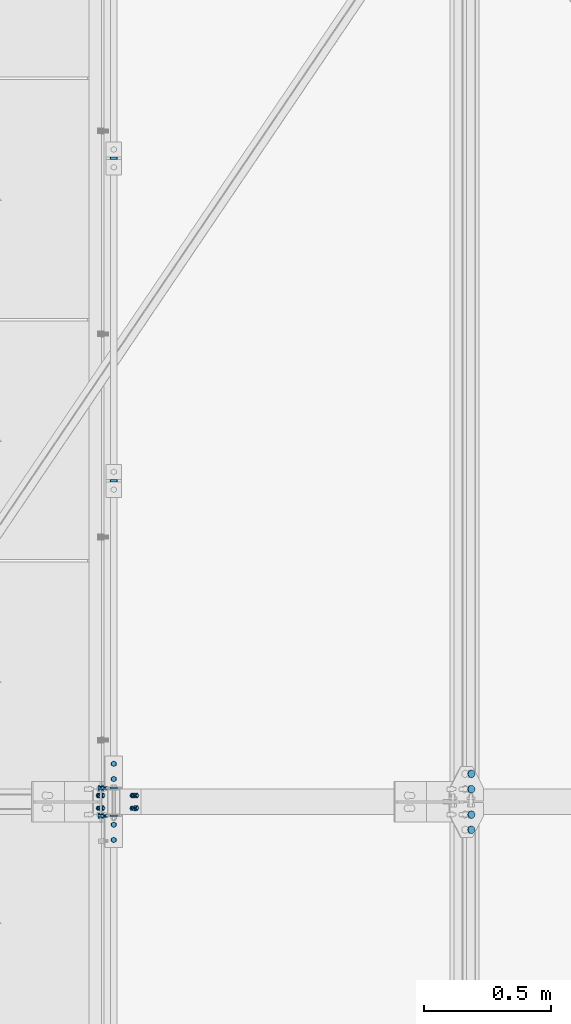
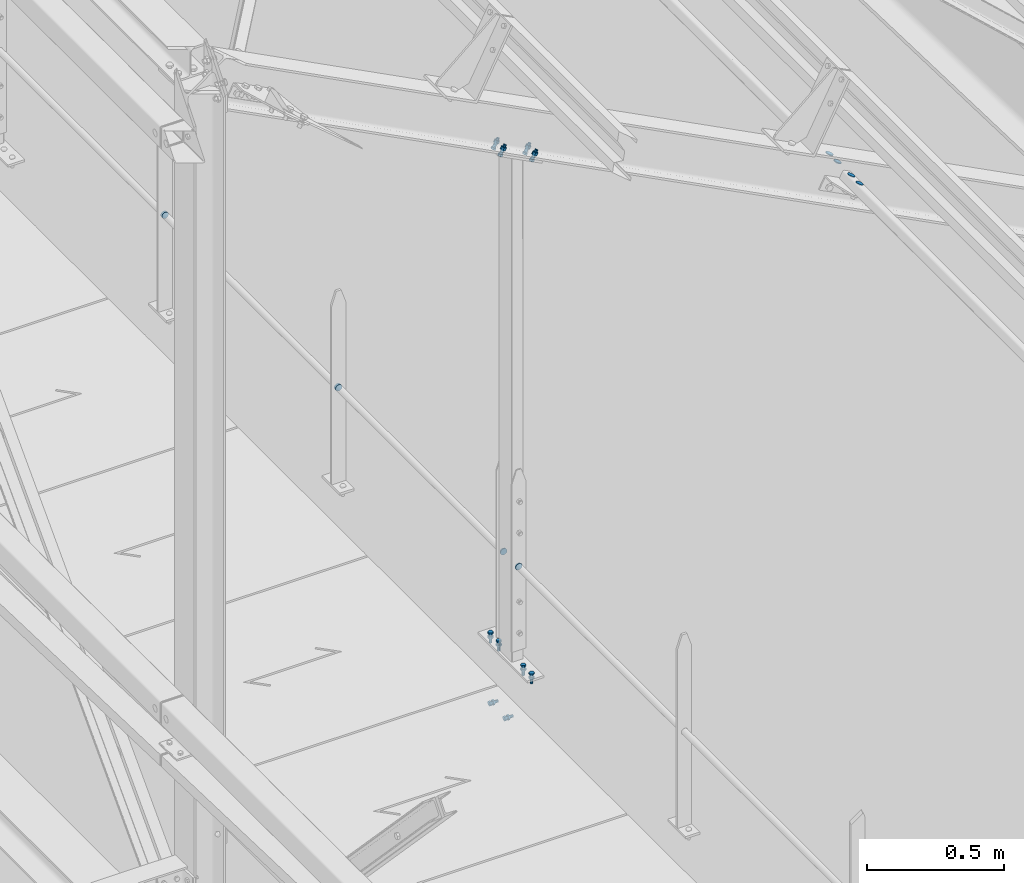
# One storey, part 290 of 362: 12 mechanical fasteners.
"""IFC2X3 building model written with IfcOpenShell, lengths in millimetres."""

import ifcopenshell
import ifcopenshell.guid

model = None  # the IFC model being written
_history = None  # IfcOwnerHistory: only IFC2X3 demands one
_inside = {}  # id of a spatial element -> (the spatial element, [elements in it])
_under = {}  # id of a project, library or spatial element -> (it, [spatial elements below it])
_declared = {}  # id of a project -> (the project, [libraries it declares])
_typed = {}  # id of a type object -> (the type object, [elements of that type])
_made_of = {}  # id of a material, layer set ... -> (it, [elements and type objects made of it])


def new_model(schema):
    """Start an empty IFC model of exactly this schema.

    Asked for "IFC4X3", IfcOpenShell would pick the latest addendum, in which some entities
    have other attributes; the version numbers below select the first issue.
    IFC2X3 requires an IfcOwnerHistory on every rooted entity: one is made here for all.
    """
    global model, _history
    if schema == "IFC4X3":
        model = ifcopenshell.file(schema_version=(4, 3, 0, 0))
    else:
        model = ifcopenshell.file(schema=schema)
    _inside.clear()
    _under.clear()
    _declared.clear()
    _typed.clear()
    _made_of.clear()
    _history = None
    if model.schema == "IFC2X3":
        org = make("IfcOrganization", Name="unknown")
        user = make(
            "IfcPersonAndOrganization",
            ThePerson=make("IfcPerson", FamilyName="unknown"),
            TheOrganization=org,
        )
        app = make(
            "IfcApplication",
            ApplicationDeveloper=org,
            Version="unknown",
            ApplicationFullName="unknown",
            ApplicationIdentifier="unknown",
        )
        _history = make(
            "IfcOwnerHistory",
            OwningUser=user,
            OwningApplication=app,
            ChangeAction="ADDED",
            CreationDate=0,
        )
    return model


def make(cls, **values):
    """One entity of the class cls with the attributes given. An attribute that is None is left unset."""
    return model.create_entity(
        cls, **{name: value for name, value in values.items() if value is not None}
    )


def rooted(cls, **values):
    """An entity with a GlobalId (a new one), such as an element, a storey or a relation."""
    return make(cls, GlobalId=ifcopenshell.guid.new(), OwnerHistory=_history, **values)


def si_unit(unit_type, name, prefix=None):
    """IfcSIUnit, for example si_unit("LENGTHUNIT", "METRE", prefix="MILLI")."""
    return make("IfcSIUnit", UnitType=unit_type, Prefix=prefix, Name=name)


def assignment(units):
    """IfcUnitAssignment: the units of a project."""
    return None if units is None else make("IfcUnitAssignment", Units=units)


def point(xyz):
    """IfcCartesianPoint."""
    return None if xyz is None else make("IfcCartesianPoint", Coordinates=xyz)


def direction(xyz):
    """IfcDirection."""
    return None if xyz is None else make("IfcDirection", DirectionRatios=xyz)


def frame(location, z_axis=None, x_axis=None):
    """IfcAxis2Placement3D, a coordinate frame: its origin and axes. An axis left out is left unset."""
    return make(
        "IfcAxis2Placement3D",
        Location=point(location),
        Axis=direction(z_axis),
        RefDirection=direction(x_axis),
    )


def frame_2d(location, x_axis=None):
    """IfcAxis2Placement2D, a coordinate frame in the plane: its origin and x axis."""
    return make(
        "IfcAxis2Placement2D", Location=point(location), RefDirection=direction(x_axis)
    )


def origin_with_axes():
    """The frame at (0, 0, 0) with the z axis (0, 0, 1) and the x axis (1, 0, 0) written out."""
    return frame((0.0, 0.0, 0.0), z_axis=(0.0, 0.0, 1.0), x_axis=(1.0, 0.0, 0.0))


def origin_2d_with_axis():
    """The frame at (0, 0) in the plane with the x axis (1, 0) written out."""
    return frame_2d((0.0, 0.0), x_axis=(1.0, 0.0))


def place(relative_to, where):
    """IfcLocalPlacement: puts the frame where relative to a parent placement (None: the world)."""
    return make(
        "IfcLocalPlacement", PlacementRelTo=relative_to, RelativePlacement=where
    )


def context(
    kind, dimensions, precision=None, world=None, true_north=None, identifier=None
):
    """IfcGeometricRepresentationContext, for example the 3D "Model" context."""
    return make(
        "IfcGeometricRepresentationContext",
        ContextIdentifier=identifier,
        ContextType=kind,
        CoordinateSpaceDimension=dimensions,
        Precision=precision,
        WorldCoordinateSystem=world,
        TrueNorth=true_north,
    )


def subcontext(parent, identifier, kind, view, scale=None):
    """IfcGeometricRepresentationSubContext, for example "Body" below "Model"."""
    return make(
        "IfcGeometricRepresentationSubContext",
        ContextIdentifier=identifier,
        ContextType=kind,
        ParentContext=parent,
        TargetScale=scale,
        TargetView=view,
    )


def project(units=None, contexts=None):
    """IfcProject with its units and contexts."""
    return rooted(
        "IfcProject",
        Name="project",
        RepresentationContexts=contexts,
        UnitsInContext=assignment(units),
    )


def spatial(cls, under=None, at=None, **own):
    """A site, building, storey or space (cls), placed at a placement, below another one or the project."""
    s = rooted(cls, ObjectPlacement=at, **own)
    if under is not None:
        _under.setdefault(under.id(), (under, []))[1].append(s)
    return s


def polyline(points):
    """IfcPolyline through the points."""
    return make("IfcPolyline", Points=[point(p) for p in points])


def profile(cls, at=None, kind="AREA", **sizes):
    """A parametric profile (cls). Its sizes go by their IFC names, for example OverallWidth=200.0."""
    return make(cls, ProfileType=kind, Position=at, **sizes)


def circle(**sizes):
    """IfcCircleProfileDef."""
    return profile("IfcCircleProfileDef", **sizes)


def outline(outer, holes=None, kind="AREA"):
    """IfcArbitraryClosedProfileDef: a profile drawn as a closed curve; with holes, ...WithVoids."""
    if holes is None:
        return make("IfcArbitraryClosedProfileDef", ProfileType=kind, OuterCurve=outer)
    return make(
        "IfcArbitraryProfileDefWithVoids",
        ProfileType=kind,
        OuterCurve=outer,
        InnerCurves=holes,
    )


def extrude(swept, where, along, depth):
    """IfcExtrudedAreaSolid: the profile swept, set in the frame where, extruded along a direction by depth."""
    return make(
        "IfcExtrudedAreaSolid",
        SweptArea=swept,
        Position=where,
        ExtrudedDirection=direction(along),
        Depth=depth,
    )


def shape(context_of_items, identifier, shape_type, items):
    """IfcShapeRepresentation: the items that make up one representation, for example the "Body"."""
    return make(
        "IfcShapeRepresentation",
        ContextOfItems=context_of_items,
        RepresentationIdentifier=identifier,
        RepresentationType=shape_type,
        Items=items,
    )


def source(mapping_origin, context_of_items, identifier, shape_type, items):
    """IfcRepresentationMap: a shape defined once, which mapped items show again and again."""
    return make(
        "IfcRepresentationMap",
        MappingOrigin=mapping_origin,
        MappedRepresentation=shape(context_of_items, identifier, shape_type, items),
    )


def transform(
    local_origin,
    x_axis=None,
    y_axis=None,
    z_axis=None,
    scale=None,
    scale2=None,
    scale3=None,
    uniform=True,
):
    """IfcCartesianTransformationOperator3D, or its non-uniform kind. x_axis, y_axis, z_axis: its Axis1, 2, 3."""
    if uniform:
        return make(
            "IfcCartesianTransformationOperator3D",
            Axis1=direction(x_axis),
            Axis2=direction(y_axis),
            LocalOrigin=point(local_origin),
            Scale=scale,
            Axis3=direction(z_axis),
        )
    return make(
        "IfcCartesianTransformationOperator3DnonUniform",
        Axis1=direction(x_axis),
        Axis2=direction(y_axis),
        LocalOrigin=point(local_origin),
        Scale=scale,
        Axis3=direction(z_axis),
        Scale2=scale2,
        Scale3=scale3,
    )


def mapped(mapping_source, mapping_target):
    """IfcMappedItem: shows the shape of a source again, moved by a transform."""
    return make(
        "IfcMappedItem", MappingSource=mapping_source, MappingTarget=mapping_target
    )


def material(Name=None, Category=None):
    """IfcMaterial."""
    return make("IfcMaterial", Name=Name, Category=Category)


def made_of(thing, what):
    """Note that an element or type object is made of a material, layer set ...; save() writes the relation."""
    if what is not None:
        _made_of.setdefault(what.id(), (what, []))[1].append(thing)
    return thing


def type_object(cls, material=None, **own):
    """A type object (cls), such as IfcWallType, which elements share."""
    return made_of(rooted(cls, **own), material)


def element(
    cls,
    number,
    at=None,
    inside=None,
    cuts=None,
    type_object=None,
    material=None,
    context=None,
    identifier="Body",
    shape_type=None,
    held_by="IfcProductDefinitionShape",
    body=None,
    shapes=None,
    **own,
):
    """One element of the class cls, such as IfcWall. Its Tag is "e" and its number.

    at: its placement. inside: the storey or other place that contains it. cuts: it is an
    opening in that element (IfcRelVoidsElement). A single representation is given by context,
    identifier, shape_type and body (its items); several are given by shapes. held_by: the class
    of the entity that holds the representations. save() writes the other relations.
    """
    e = rooted(cls, Tag="e%d" % number, ObjectPlacement=at, **own)
    if body is not None:
        shapes = [shape(context, identifier, shape_type, body)]
    if shapes is not None:
        e.Representation = make(held_by, Representations=shapes)
    if inside is not None:
        _inside.setdefault(inside.id(), (inside, []))[1].append(e)
    if cuts is not None:
        rooted(
            "IfcRelVoidsElement", RelatingBuildingElement=cuts, RelatedOpeningElement=e
        )
    if type_object is not None:
        _typed.setdefault(type_object.id(), (type_object, []))[1].append(e)
    return made_of(e, material)


def aggregate(whole, parts):
    """IfcRelAggregates: a whole, such as a stair, and the parts it consists of."""
    return rooted("IfcRelAggregates", RelatingObject=whole, RelatedObjects=parts)


def save(model, path):
    """Write the relations noted so far, then the file.

    IfcRelAggregates (storeys below a building ...), IfcRelContainedInSpatialStructure (elements
    in a storey), IfcRelDefinesByType, IfcRelAssociatesMaterial and IfcRelDeclares: one each for
    every whole, place, type object, material and project.
    """
    for whole, parts in _under.values():
        aggregate(whole, parts)
    for where, things in _inside.values():
        rooted(
            "IfcRelContainedInSpatialStructure",
            RelatedElements=things,
            RelatingStructure=where,
        )
    for kind, things in _typed.values():
        rooted("IfcRelDefinesByType", RelatedObjects=things, RelatingType=kind)
    for what, things in _made_of.values():
        rooted("IfcRelAssociatesMaterial", RelatedObjects=things, RelatingMaterial=what)
    for by, libraries in _declared.values():
        rooted("IfcRelDeclares", RelatingContext=by, RelatedDefinitions=libraries)
    model.write(path)


model = new_model("IFC2X3")

# Units and contexts
model_context = context("Model", 3, precision=1e-05, world=origin_with_axes())
body_context = subcontext(model_context, "Body", "Model", "MODEL_VIEW")
ifc_project = project(units=[si_unit("LENGTHUNIT", "METRE", prefix="MILLI"), si_unit("AREAUNIT", "SQUARE_METRE"), si_unit("VOLUMEUNIT", "CUBIC_METRE"), si_unit("MASSUNIT", "GRAM", prefix="KILO"), si_unit("TIMEUNIT", "SECOND"), si_unit("PLANEANGLEUNIT", "RADIAN"), si_unit("SOLIDANGLEUNIT", "STERADIAN"), si_unit("THERMODYNAMICTEMPERATUREUNIT", "DEGREE_CELSIUS"), si_unit("LUMINOUSINTENSITYUNIT", "LUMEN")], contexts=[model_context])

# Site, building, storey
site_placement = place(None, origin_with_axes())
site = spatial("IfcSite", under=ifc_project, at=site_placement, Name="Undefined", CompositionType="ELEMENT")
building_placement = place(site_placement, origin_with_axes())
building = spatial("IfcBuilding", under=site, at=building_placement, Name="Undefined", CompositionType="ELEMENT")
storey_placement = place(building_placement, origin_with_axes())
storey = spatial("IfcBuildingStorey", under=building, at=storey_placement, Name="Undefined", CompositionType="ELEMENT", Elevation=0.0)

# Mechanical fasteners
ifc_material_1 = material(Name="8.8-SB-ZINGUE")
mechanical_fastener_type = type_object("IfcMechanicalFastenerType", Name="Bolt assembly")
shared_shape_1 = source(origin_with_axes(), body_context, "Body", "SweptSolid", [
    extrude(circle(Radius=7.0, at=origin_2d_with_axis()), frame((0.0, -10.0000010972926, 0.0), z_axis=(0.0, 1.0, 0.0), x_axis=(1.0, 0.0, 0.0)), (0.0, 0.0, 1.0), 10.1),
    extrude(outline(polyline([(10.39230484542, 0.0), (5.19615242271, 9.00000000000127), (-5.19615242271, 9.00000000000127), (-10.39230484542, 0.0), (-5.19615242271, -9.00000000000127), (5.19615242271, -9.00000000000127), (10.39230484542, 0.0)])), frame((0.0, -17.92, 0.0), z_axis=(0.0, 1.0, 0.0), x_axis=(1.0, 0.0, 0.0)), (0.0, 0.0, 1.0), 7.92),
    extrude(circle(Radius=6.0, at=origin_2d_with_axis()), frame((0.0, -10.0000010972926, 0.0), z_axis=(0.0, 1.0, 0.0), x_axis=(1.0, 0.0, 0.0)), (0.0, 0.0, 1.0), 40.0),
    extrude(outline(polyline([(11.5008173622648, 0.0), (5.7504086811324, 9.96000000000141), (-5.7504086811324, 9.96000000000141), (-11.5008173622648, 0.0), (-5.7504086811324, -9.96000000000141), (5.7504086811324, -9.96000000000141), (11.5008173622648, 0.0)])), frame((0.0, 0.0, 0.0), z_axis=(0.0, 1.0, 0.0), x_axis=(1.0, 0.0, 0.0)), (0.0, 0.0, 1.0), 7.92),
])
for number, where, z_axis, x_axis, name in (
    (1, (24783.9916006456, 7750.00010620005, 8239.99999240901), (1.0, 0.0, 0.0), (0.0, -1.0, 0.0), "Bolt assembly"),
    (2, (24783.9916006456, 7450.00010619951, 8240.00002612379), (-1.0, 0.0, 0.0), (0.0, 1.0, 0.0), "Bolt assembly"),
):
    element("IfcMechanicalFastener", number, at=place(storey_placement, frame(where, z_axis=z_axis, x_axis=x_axis)), inside=storey, type_object=mechanical_fastener_type, material=ifc_material_1, Name=name, NominalDiameter=12.0, NominalLength=40.0, context=body_context, shape_type="MappedRepresentation", body=[
        mapped(shared_shape_1, transform((0.0, 0.0, 0.0))),
        mapped(shared_shape_1, transform((60.0, 0.0, 0.0))),
    ])
ifc_material_2 = material(Name="6.8")
shared_shape_2 = source(origin_with_axes(), body_context, "Body", "SweptSolid", [
    extrude(circle(Radius=14.0, at=origin_2d_with_axis()), frame((0.0, -5.00000000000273, 0.0), z_axis=(0.0, 1.0, 0.0), x_axis=(1.0, 0.0, 0.0)), (0.0, 0.0, 1.0), 10.1),
])
for number, where, z_axis, x_axis, name in (
    (3, (24783.9916042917, 8865.00344013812, 8673.80000113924), (0.0, 0.0, 1.0), (-1.0, 0.0, 0.0), "Bolt assembly"),
    (4, (24783.9916051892, 10135.0034401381, 8673.80000023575), (0.0, 0.0, 1.0), (-1.0, 0.0, 0.0), "Bolt assembly"),
):
    element("IfcMechanicalFastener", number, at=place(storey_placement, frame(where, z_axis=z_axis, x_axis=x_axis)), inside=storey, type_object=mechanical_fastener_type, material=ifc_material_2, Name=name, NominalDiameter=27.0, NominalLength=10.0, context=body_context, shape_type="MappedRepresentation", body=[
        mapped(shared_shape_2, transform((0.0, 0.0, 0.0))),
    ])
shared_shape_3 = source(origin_with_axes(), body_context, "Body", "SweptSolid", [
    extrude(circle(Radius=14.0, at=origin_2d_with_axis()), frame((0.0, -2.5, 0.0), z_axis=(0.0, 1.0, 0.0), x_axis=(1.0, 0.0, 0.0)), (0.0, 0.0, 1.0), 5.1),
])
for number, where, z_axis, x_axis, name in (
    (5, (24783.9916033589, 7545.00000183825, 8673.80000207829), (0.0, 0.0, 1.0), (-1.0, 0.0, 0.0), "Bolt assembly"),
    (6, (24783.9916034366, 7655.00000182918, 8673.80000200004), (0.0, 0.0, 1.0), (-1.0, 0.0, 0.0), "Bolt assembly"),
):
    element("IfcMechanicalFastener", number, at=place(storey_placement, frame(where, z_axis=z_axis, x_axis=x_axis)), inside=storey, type_object=mechanical_fastener_type, material=ifc_material_2, Name=name, NominalDiameter=27.0, NominalLength=10.0, context=body_context, shape_type="MappedRepresentation", body=[
        mapped(shared_shape_3, transform((0.0, 0.0, 0.0))),
    ])
shared_shape_4 = source(origin_with_axes(), body_context, "Body", "SweptSolid", [
    extrude(circle(Radius=7.0, at=origin_2d_with_axis()), frame((0.0, -0.100011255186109, 0.0), z_axis=(0.0, 1.0, 0.0), x_axis=(1.0, 0.0, 0.0)), (0.0, 0.0, 1.0), 8.6),
    extrude(circle(Radius=7.0, at=origin_2d_with_axis()), frame((0.0, -9.9, 0.0), z_axis=(0.0, 1.0, 0.0), x_axis=(1.0, 0.0, 0.0)), (0.0, 0.0, 1.0), 10.0),
    extrude(outline(polyline([(10.39230484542, 0.0), (5.19615242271, 9.00000000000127), (-5.19615242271, 9.00000000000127), (-10.39230484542, 0.0), (-5.19615242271, -9.00000000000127), (5.19615242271, -9.00000000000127), (10.39230484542, 0.0)])), frame((0.0, -17.92, 0.0), z_axis=(0.0, 1.0, 0.0), x_axis=(1.0, 0.0, 0.0)), (0.0, 0.0, 1.0), 7.92),
    extrude(circle(Radius=6.0, at=origin_2d_with_axis()), frame((0.0, -10.0000010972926, 0.0), z_axis=(0.0, 1.0, 0.0), x_axis=(1.0, 0.0, 0.0)), (0.0, 0.0, 1.0), 40.0),
    extrude(circle(Radius=10.8, at=origin_2d_with_axis()), frame((0.0, 8.49999994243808, 0.0), z_axis=(0.0, 1.0, 0.0), x_axis=(1.0, 0.0, 0.0)), (0.0, 0.0, 1.0), 3.96),
    extrude(outline(polyline([(11.5008173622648, 0.0), (5.7504086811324, 9.96000000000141), (-5.7504086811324, 9.96000000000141), (-11.5008173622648, 0.0), (-5.7504086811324, -9.96000000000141), (5.7504086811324, -9.96000000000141), (11.5008173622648, 0.0)])), frame((0.0, 12.4599999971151, 0.0), z_axis=(0.0, 1.0, 0.0), x_axis=(1.0, 0.0, 0.0)), (0.0, 0.0, 1.0), 7.92),
])
for number, where, z_axis, x_axis, name in (
    (7, (24863.8999550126, 7600.00000000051, 10457.6989417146), (0.0, 1.0, 0.0), (-0.887870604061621, -1.29999898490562e-08, 0.460093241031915), "Bolt assembly"),
    (8, (24730.7193644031, 7600.0000000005, 10526.7129278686), (0.0, -1.0, 0.0), (0.887870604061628, 0.0, -0.460093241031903), "Bolt assembly"),
):
    element("IfcMechanicalFastener", number, at=place(storey_placement, frame(where, z_axis=z_axis, x_axis=x_axis)), inside=storey, type_object=mechanical_fastener_type, material=ifc_material_1, Name=name, NominalDiameter=12.0, NominalLength=40.0, context=body_context, shape_type="MappedRepresentation", body=[
        mapped(shared_shape_4, transform((0.0, 0.0, -25.0))),
        mapped(shared_shape_4, transform((0.0, 0.0, 25.0))),
    ])
shared_shape_5 = source(origin_with_axes(), body_context, "Body", "SweptSolid", [
    extrude(circle(Radius=7.0, at=origin_2d_with_axis()), frame((0.0, -6.5, 0.0), z_axis=(0.0, 1.0, 0.0), x_axis=(1.0, 0.0, 0.0)), (0.0, 0.0, 1.0), 6.1),
    extrude(outline(polyline([(10.39230484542, 0.0), (5.19615242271, 9.00000000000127), (-5.19615242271, 9.00000000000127), (-10.39230484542, 0.0), (-5.19615242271, -9.00000000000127), (5.19615242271, -9.00000000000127), (10.39230484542, 0.0)])), frame((0.0, -14.42, 0.0), z_axis=(0.0, 1.0, 0.0), x_axis=(1.0, 0.0, 0.0)), (0.0, 0.0, 1.0), 7.92),
    extrude(circle(Radius=6.0, at=origin_2d_with_axis()), frame((0.0, -6.5, 0.0), z_axis=(0.0, 1.0, 0.0), x_axis=(1.0, 0.0, 0.0)), (0.0, 0.0, 1.0), 30.0),
    extrude(outline(polyline([(11.5008173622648, 0.0), (5.7504086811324, 9.96000000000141), (-5.7504086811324, 9.96000000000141), (-11.5008173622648, 0.0), (-5.7504086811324, -9.96000000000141), (5.7504086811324, -9.96000000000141), (11.5008173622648, 0.0)])), frame((0.0, -0.5, 0.0), z_axis=(0.0, 1.0, 0.0), x_axis=(1.0, 0.0, 0.0)), (0.0, 0.0, 1.0), 7.92),
])
for number, where, z_axis, x_axis, name in (
    (9, (24736.4916006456, 7654.99999063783, 8015.00000000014), (0.0, 0.0, 1.0), (0.0, -1.0, 0.0), "Bolt assembly"),
    (10, (24736.4916006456, 7544.99999998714, 8015.00000000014), (0.0, 0.0, -1.0), (0.0, 1.0, 0.0), "Bolt assembly"),
):
    element("IfcMechanicalFastener", number, at=place(storey_placement, frame(where, z_axis=z_axis, x_axis=x_axis)), inside=storey, type_object=mechanical_fastener_type, material=ifc_material_1, Name=name, NominalDiameter=12.0, NominalLength=30.0, context=body_context, shape_type="MappedRepresentation", body=[
        mapped(shared_shape_5, transform((0.0, 0.0, 0.0))),
    ])
shared_shape_6 = source(origin_with_axes(), body_context, "Body", "SweptSolid", [
    extrude(circle(Radius=15.0, at=origin_2d_with_axis()), frame((0.0, 6.26397177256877e-05, 0.0), z_axis=(0.0, 1.0, 0.0), x_axis=(1.0, 0.0, 0.0)), (0.0, 0.0, 1.0), 4.1),
])
for number, where, z_axis, x_axis, name in (
    (11, (26193.4080363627, 7550.00013262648, 9926.43050353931), (0.887870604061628, 0.0, -0.460093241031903), (0.0, -1.0, 0.0), "Bolt assembly"),
    (12, (26193.4080348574, 7650.00027285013, 9926.43050353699), (-0.887870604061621, -1.29999898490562e-08, 0.460093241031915), (0.0, 1.0, 0.0), "Bolt assembly"),
):
    element("IfcMechanicalFastener", number, at=place(storey_placement, frame(where, z_axis=z_axis, x_axis=x_axis)), inside=storey, type_object=mechanical_fastener_type, material=ifc_material_2, Name=name, NominalDiameter=30.0, NominalLength=4.0, context=body_context, shape_type="MappedRepresentation", body=[
        mapped(shared_shape_6, transform((0.0, 0.0, 0.0))),
        mapped(shared_shape_6, transform((60.0, 0.0, 0.0))),
    ])

save(model, "model.ifc")
